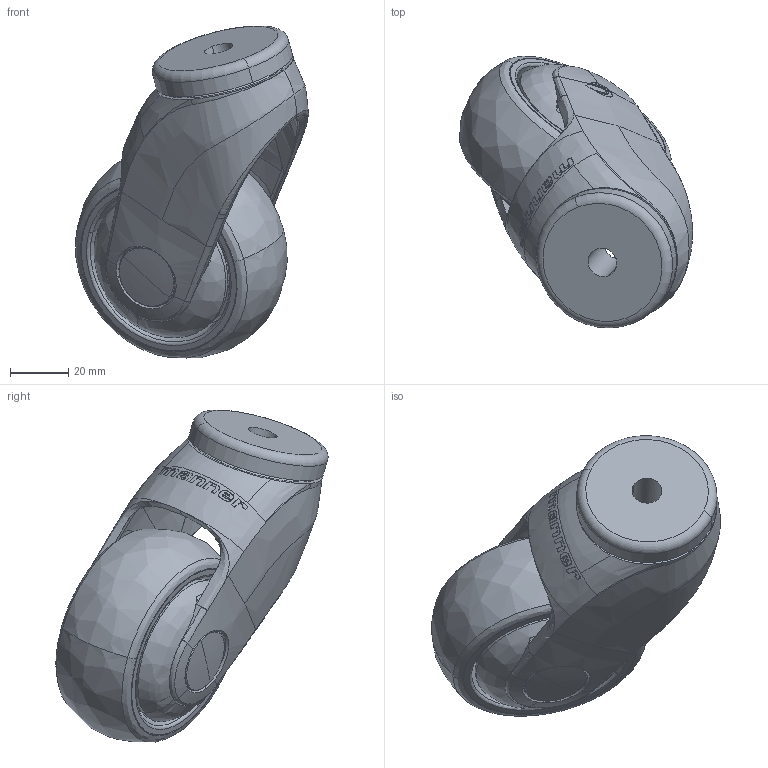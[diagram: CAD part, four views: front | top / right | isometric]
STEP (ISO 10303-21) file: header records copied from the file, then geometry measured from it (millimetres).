
FILE_DESCRIPTION (( 'STEP AP203' ), '1' );
FILE_NAME ('GK-S-75 PTE-K 80.STEP', '2019-11-07T07:59:17', ( '' ), ( '' ), 'SwSTEP 2.0', 'SolidWorks 2017', '' );
FILE_SCHEMA (( 'CONFIG_CONTROL_DESIGN' ));
Length unit declared in the file: millimetre
Products named in the file (1): GK-S-75 PTE-K 80
Bounding box: 79.83 x 93.17 x 113.67 mm (x, y, z)
Surface area: 92608.2 mm2 (no closed solid volume)
Topology: 0 solids, 20 shells, 640 faces, 1904 edges, 1314 vertices
Faces by surface type: bspline 190, plane 185, cylinder 126, cone 81, torus 42, sphere 16
Entity records: 52451 total; most frequent: CARTESIAN_POINT 37636, ORIENTED_EDGE 3689, DIRECTION 2267, EDGE_CURVE 1850, VERTEX_POINT 1288, AXIS2_PLACEMENT_3D 954, B_SPLINE_CURVE_WITH_KNOTS 858, EDGE_LOOP 701
